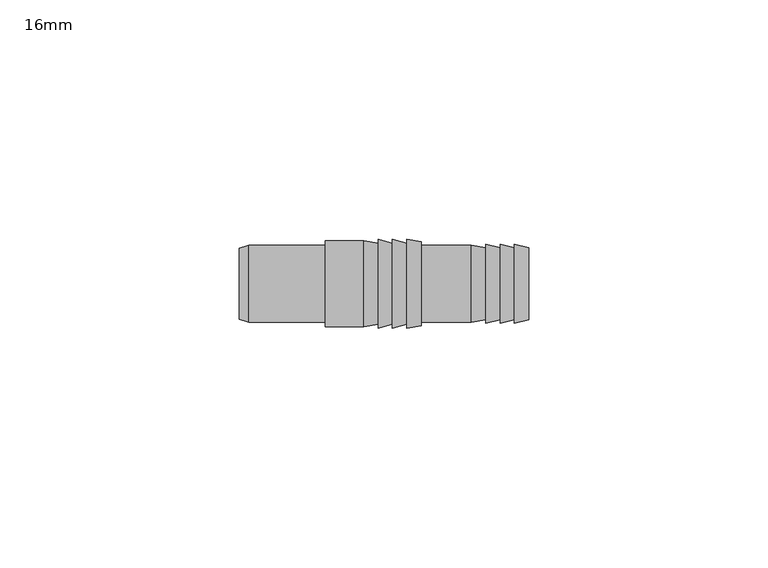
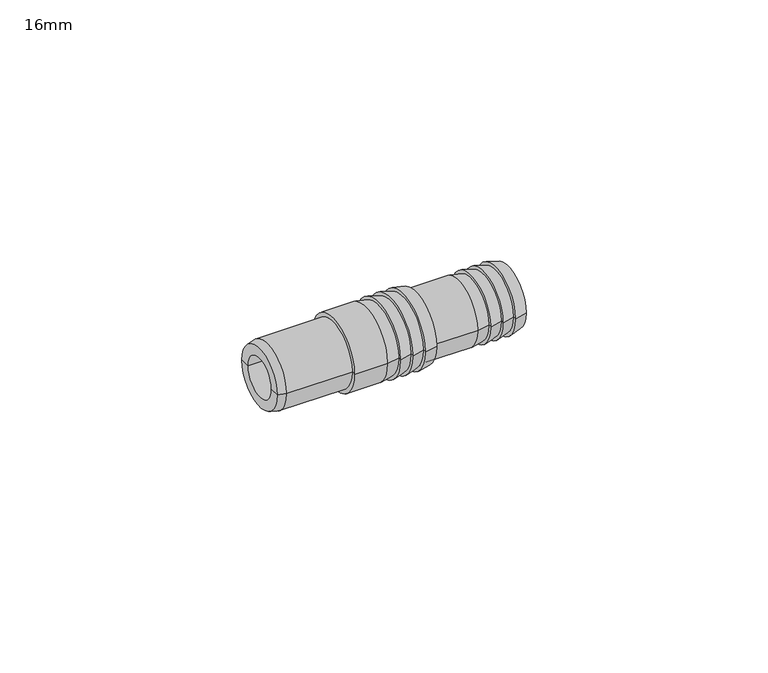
"""IFC4 building model written with IfcOpenShell, lengths in millimetres: pipe fitting geometry, Durapipe_PipeAccessories_PVC_HoseAdaptor : 16mm."""

from ifc_helpers import new_model, si_unit, frame, origin, place, context, project, spatial, polyline, circle_curve, source, transform, mapped, element, save
from ifc_brep_helpers import plane_surface, cylinder_surface, revolved_surface, advanced_brep


def pipe_fitting_16mm_850bc981(model_context):
    return source(origin(), model_context, "Body", "AdvancedBrep", [
        advanced_brep(
        [(-30.25, -5.0, 0.0), (-30.25, 5.0, 0.0), (-30.25, 7.4641016, 0.0), (-30.25, -7.4641016, 0.0), (30.25, -5.0, 0.0), (30.25, 5.0, 0.0), (30.25, -7.4884573, 0.0), (30.25, 7.4884573, 0.0), (27.25, -8.2923048, 0.0), (27.25, 8.2923048, 0.0), (27.25, -7.4923048, 0.0), (27.25, 7.4923048, 0.0), (24.25, -8.2961524, 0.0), (24.25, 8.2961524, 0.0), (24.25, -7.4961524, 0.0), (24.25, 7.4961524, 0.0), (21.25, -8.3, 0.0), (21.25, 8.3, 0.0), (21.25, -7.5, 0.0), (21.25, 7.5, 0.0), (18.25, -8.0, 0.0), (18.25, 8.0, 0.0), (7.75, -8.0, 0.0), (7.75, 8.0, 0.0), (7.75, -8.8, 0.0), (7.75, 8.8, 0.0), (4.75, -9.3, 0.0), (4.75, 9.3, 0.0), (4.75, -8.5, 0.0), (4.75, 8.5, 0.0), (1.75, -9.3, 0.0), (1.75, 9.3, 0.0), (1.75, -8.5, 0.0), (1.75, 8.5, 0.0), (-1.25, -9.3, 0.0), (-1.25, 9.3, 0.0), (-1.25, -8.5, 0.0), (-1.25, 8.5, 0.0), (-4.25, -9.0, 0.0), (-4.25, 9.0, 0.0), (-12.25, -9.0, 0.0), (-12.25, 9.0, 0.0), (-12.25, -8.0, 0.0), (-12.25, 8.0, 0.0), (-28.25, -8.0, 0.0), (-28.25, 8.0, 0.0)],
        [
            (0, 1, circle_curve(frame((-30.25, 0.0, 0.0), z_axis=(1.0, 0.0, 0.0), x_axis=(0.0, 1.0, 0.0)), 5.0)),
            (1, 2),
            (2, 3, circle_curve(frame((-30.25, 0.0, 0.0), z_axis=(-1.0, 0.0, 0.0), x_axis=(0.0, 1.0, 0.0)), 7.4641016)),
            (3, 0),
            (1, 0, circle_curve(frame((-30.25, 0.0, 0.0), z_axis=(1.0, 0.0, 0.0), x_axis=(0.0, 1.0, 0.0)), 5.0)),
            (3, 2, circle_curve(frame((-30.25, 0.0, 0.0), z_axis=(-1.0, 0.0, 0.0), x_axis=(0.0, 1.0, 0.0)), 7.4641016)),
            (4, 5, circle_curve(frame((30.25, 0.0, 0.0), z_axis=(1.0, 0.0, 0.0), x_axis=(0.0, 1.0, 0.0)), 5.0)),
            (5, 1),
            (0, 4),
            (5, 4, circle_curve(frame((30.25, 0.0, 0.0), z_axis=(1.0, 0.0, 0.0), x_axis=(0.0, 1.0, 0.0)), 5.0)),
            (6, 7, circle_curve(frame((30.25, 0.0, 0.0), z_axis=(1.0, 0.0, 0.0), x_axis=(0.0, 1.0, 0.0)), 7.4884573)),
            (7, 5),
            (4, 6),
            (7, 6, circle_curve(frame((30.25, 0.0, 0.0), z_axis=(1.0, 0.0, 0.0), x_axis=(0.0, 1.0, 0.0)), 7.4884573)),
            (8, 9, circle_curve(frame((27.25, 0.0, 0.0), z_axis=(1.0, 0.0, 0.0), x_axis=(0.0, 1.0, 0.0)), 8.2923048)),
            (9, 7),
            (6, 8),
            (9, 8, circle_curve(frame((27.25, 0.0, 0.0), z_axis=(1.0, 0.0, 0.0), x_axis=(0.0, 1.0, 0.0)), 8.2923048)),
            (10, 11, circle_curve(frame((27.25, 0.0, 0.0), z_axis=(1.0, 0.0, 0.0), x_axis=(0.0, 1.0, 0.0)), 7.4923048)),
            (11, 9),
            (8, 10),
            (11, 10, circle_curve(frame((27.25, 0.0, 0.0), z_axis=(1.0, 0.0, 0.0), x_axis=(0.0, 1.0, 0.0)), 7.4923048)),
            (12, 13, circle_curve(frame((24.25, 0.0, 0.0), z_axis=(1.0, 0.0, 0.0), x_axis=(0.0, 1.0, 0.0)), 8.2961524)),
            (13, 11),
            (10, 12),
            (13, 12, circle_curve(frame((24.25, 0.0, 0.0), z_axis=(1.0, 0.0, 0.0), x_axis=(0.0, 1.0, 0.0)), 8.2961524)),
            (14, 15, circle_curve(frame((24.25, 0.0, 0.0), z_axis=(1.0, 0.0, 0.0), x_axis=(0.0, 1.0, 0.0)), 7.4961524)),
            (15, 13),
            (12, 14),
            (15, 14, circle_curve(frame((24.25, 0.0, 0.0), z_axis=(1.0, 0.0, 0.0), x_axis=(0.0, 1.0, 0.0)), 7.4961524)),
            (16, 17, circle_curve(frame((21.25, 0.0, 0.0), z_axis=(1.0, 0.0, 0.0), x_axis=(0.0, 1.0, 0.0)), 8.3)),
            (17, 15),
            (14, 16),
            (17, 16, circle_curve(frame((21.25, 0.0, 0.0), z_axis=(1.0, 0.0, 0.0), x_axis=(0.0, 1.0, 0.0)), 8.3)),
            (18, 19, circle_curve(frame((21.25, 0.0, 0.0), z_axis=(1.0, 0.0, 0.0), x_axis=(0.0, 1.0, 0.0)), 7.5)),
            (19, 17),
            (16, 18),
            (19, 18, circle_curve(frame((21.25, 0.0, 0.0), z_axis=(1.0, 0.0, 0.0), x_axis=(0.0, 1.0, 0.0)), 7.5)),
            (20, 21, circle_curve(frame((18.25, 0.0, 0.0), z_axis=(1.0, 0.0, 0.0), x_axis=(0.0, 1.0, 0.0)), 8.0)),
            (21, 19),
            (18, 20),
            (21, 20, circle_curve(frame((18.25, 0.0, 0.0), z_axis=(1.0, 0.0, 0.0), x_axis=(0.0, 1.0, 0.0)), 8.0)),
            (22, 23, circle_curve(frame((7.75, 0.0, 0.0), z_axis=(1.0, 0.0, 0.0), x_axis=(0.0, 1.0, 0.0)), 8.0)),
            (23, 21),
            (20, 22),
            (23, 22, circle_curve(frame((7.75, 0.0, 0.0), z_axis=(1.0, 0.0, 0.0), x_axis=(0.0, 1.0, 0.0)), 8.0)),
            (24, 25, circle_curve(frame((7.75, 0.0, 0.0), z_axis=(1.0, 0.0, 0.0), x_axis=(0.0, 1.0, 0.0)), 8.8)),
            (25, 23),
            (22, 24),
            (25, 24, circle_curve(frame((7.75, 0.0, 0.0), z_axis=(1.0, 0.0, 0.0), x_axis=(0.0, 1.0, 0.0)), 8.8)),
            (26, 27, circle_curve(frame((4.75, 0.0, 0.0), z_axis=(1.0, 0.0, 0.0), x_axis=(0.0, 1.0, 0.0)), 9.3)),
            (27, 25),
            (24, 26),
            (27, 26, circle_curve(frame((4.75, 0.0, 0.0), z_axis=(1.0, 0.0, 0.0), x_axis=(0.0, 1.0, 0.0)), 9.3)),
            (28, 29, circle_curve(frame((4.75, 0.0, 0.0), z_axis=(1.0, 0.0, 0.0), x_axis=(0.0, 1.0, 0.0)), 8.5)),
            (29, 27),
            (26, 28),
            (29, 28, circle_curve(frame((4.75, 0.0, 0.0), z_axis=(1.0, 0.0, 0.0), x_axis=(0.0, 1.0, 0.0)), 8.5)),
            (30, 31, circle_curve(frame((1.75, 0.0, 0.0), z_axis=(1.0, 0.0, 0.0), x_axis=(0.0, 1.0, 0.0)), 9.3)),
            (31, 29),
            (28, 30),
            (31, 30, circle_curve(frame((1.75, 0.0, 0.0), z_axis=(1.0, 0.0, 0.0), x_axis=(0.0, 1.0, 0.0)), 9.3)),
            (32, 33, circle_curve(frame((1.75, 0.0, 0.0), z_axis=(1.0, 0.0, 0.0), x_axis=(0.0, 1.0, 0.0)), 8.5)),
            (33, 31),
            (30, 32),
            (33, 32, circle_curve(frame((1.75, 0.0, 0.0), z_axis=(1.0, 0.0, 0.0), x_axis=(0.0, 1.0, 0.0)), 8.5)),
            (34, 35, circle_curve(frame((-1.25, 0.0, 0.0), z_axis=(1.0, 0.0, 0.0), x_axis=(0.0, 1.0, 0.0)), 9.3)),
            (35, 33),
            (32, 34),
            (35, 34, circle_curve(frame((-1.25, 0.0, 0.0), z_axis=(1.0, 0.0, 0.0), x_axis=(0.0, 1.0, 0.0)), 9.3)),
            (36, 37, circle_curve(frame((-1.25, 0.0, 0.0), z_axis=(1.0, 0.0, 0.0), x_axis=(0.0, 1.0, 0.0)), 8.5)),
            (37, 35),
            (34, 36),
            (37, 36, circle_curve(frame((-1.25, 0.0, 0.0), z_axis=(1.0, 0.0, 0.0), x_axis=(0.0, 1.0, 0.0)), 8.5)),
            (38, 39, circle_curve(frame((-4.25, 0.0, 0.0), z_axis=(1.0, 0.0, 0.0), x_axis=(0.0, 1.0, 0.0)), 9.0)),
            (39, 37),
            (36, 38),
            (39, 38, circle_curve(frame((-4.25, 0.0, 0.0), z_axis=(1.0, 0.0, 0.0), x_axis=(0.0, 1.0, 0.0)), 9.0)),
            (40, 41, circle_curve(frame((-12.25, 0.0, 0.0), z_axis=(1.0, 0.0, 0.0), x_axis=(0.0, 1.0, 0.0)), 9.0)),
            (41, 39),
            (38, 40),
            (41, 40, circle_curve(frame((-12.25, 0.0, 0.0), z_axis=(1.0, 0.0, 0.0), x_axis=(0.0, 1.0, 0.0)), 9.0)),
            (42, 43, circle_curve(frame((-12.25, 0.0, 0.0), z_axis=(1.0, 0.0, 0.0), x_axis=(0.0, 1.0, 0.0)), 8.0)),
            (43, 41),
            (40, 42),
            (43, 42, circle_curve(frame((-12.25, 0.0, 0.0), z_axis=(1.0, 0.0, 0.0), x_axis=(0.0, 1.0, 0.0)), 8.0)),
            (44, 45, circle_curve(frame((-28.25, 0.0, 0.0), z_axis=(1.0, 0.0, 0.0), x_axis=(0.0, 1.0, 0.0)), 8.0)),
            (45, 43),
            (42, 44),
            (45, 44, circle_curve(frame((-28.25, 0.0, 0.0), z_axis=(1.0, 0.0, 0.0), x_axis=(0.0, 1.0, 0.0)), 8.0)),
            (2, 45),
            (44, 3),
        ],
        [
            plane_surface(frame((-30.25, 0.0, 0.0), z_axis=(-1.0, 0.0, 0.0), x_axis=(0.0, 1.0, 0.0))),
            revolved_surface(polyline([(-30.25, 5.0, 0.0), (30.25, 5.0, 0.0)]), (-28.25, 0.0, 0.0), (-1.0, 0.0, 0.0)),
            plane_surface(frame((30.25, 0.0, 0.0), z_axis=(1.0, 0.0, 0.0), x_axis=(0.0, 1.0, 0.0))),
            revolved_surface(polyline([(30.25, 7.4884573, 0.0), (27.25, 8.2923048, 0.0)]), (-28.25, 0.0, 0.0), (-1.0, 0.0, 0.0)),
            plane_surface(frame((27.25, 0.0, 0.0), z_axis=(-1.0, 0.0, 0.0), x_axis=(0.0, 1.0, 0.0))),
            revolved_surface(polyline([(27.25, 7.4923048, 0.0), (24.25, 8.2961524, 0.0)]), (-28.25, 0.0, 0.0), (-1.0, 0.0, 0.0)),
            plane_surface(frame((24.25, 0.0, 0.0), z_axis=(-1.0, 0.0, 0.0), x_axis=(0.0, 1.0, 0.0))),
            revolved_surface(polyline([(24.25, 7.4961524, 0.0), (21.25, 8.3, 0.0)]), (-28.25, 0.0, 0.0), (-1.0, 0.0, 0.0)),
            plane_surface(frame((21.25, 0.0, 0.0), z_axis=(-1.0, 0.0, 0.0), x_axis=(0.0, 1.0, 0.0))),
            revolved_surface(polyline([(21.25, 7.5, 0.0), (18.25, 8.0, 0.0)]), (-28.25, 0.0, 0.0), (-1.0, 0.0, 0.0)),
            cylinder_surface(frame((-28.25, 0.0, 0.0), z_axis=(-1.0, 0.0, 0.0), x_axis=(0.0, 1.0, 0.0)), 8.0),
            plane_surface(frame((7.75, 0.0, 0.0), z_axis=(1.0, 0.0, 0.0), x_axis=(0.0, 1.0, 0.0))),
            revolved_surface(polyline([(7.75, 8.8, 0.0), (4.75, 9.3, 0.0)]), (-28.25, 0.0, 0.0), (-1.0, 0.0, 0.0)),
            plane_surface(frame((4.75, 0.0, 0.0), z_axis=(-1.0, 0.0, 0.0), x_axis=(0.0, 1.0, 0.0))),
            revolved_surface(polyline([(4.75, 8.5, 0.0), (1.75, 9.3, 0.0)]), (-28.25, 0.0, 0.0), (-1.0, 0.0, 0.0)),
            plane_surface(frame((1.75, 0.0, 0.0), z_axis=(-1.0, 0.0, 0.0), x_axis=(0.0, 1.0, 0.0))),
            revolved_surface(polyline([(1.75, 8.5, 0.0), (-1.25, 9.3, 0.0)]), (-28.25, 0.0, 0.0), (-1.0, 0.0, 0.0)),
            plane_surface(frame((-1.25, 0.0, 0.0), z_axis=(-1.0, 0.0, 0.0), x_axis=(0.0, 1.0, 0.0))),
            revolved_surface(polyline([(-1.25, 8.5, 0.0), (-4.25, 9.0, 0.0)]), (-28.25, 0.0, 0.0), (-1.0, 0.0, 0.0)),
            cylinder_surface(frame((-28.25, 0.0, 0.0), z_axis=(-1.0, 0.0, 0.0), x_axis=(0.0, 1.0, 0.0)), 9.0),
            plane_surface(frame((-12.25, 0.0, 0.0), z_axis=(-1.0, 0.0, 0.0), x_axis=(0.0, 1.0, 0.0))),
            revolved_surface(polyline([(-28.25, 8.0, 0.0), (-30.25, 7.4641016, 0.0)]), (-28.25, 0.0, 0.0), (-1.0, 0.0, 0.0)),
        ],
        [
            (0, [[1, 2, 3, 4]]),
            (0, [[5, -4, 6, -2]]),
            (1, [[7, 8, -1, 9]]),
            (1, [[10, -9, -5, -8]]),
            (2, [[11, 12, -7, 13]]),
            (2, [[14, -13, -10, -12]]),
            (3, [[15, 16, -11, 17]]),
            (3, [[18, -17, -14, -16]]),
            (4, [[19, 20, -15, 21]]),
            (4, [[22, -21, -18, -20]]),
            (5, [[23, 24, -19, 25]]),
            (5, [[26, -25, -22, -24]]),
            (6, [[27, 28, -23, 29]]),
            (6, [[30, -29, -26, -28]]),
            (7, [[31, 32, -27, 33]]),
            (7, [[34, -33, -30, -32]]),
            (8, [[35, 36, -31, 37]]),
            (8, [[38, -37, -34, -36]]),
            (9, [[39, 40, -35, 41]]),
            (9, [[42, -41, -38, -40]]),
            (10, [[43, 44, -39, 45]]),
            (10, [[46, -45, -42, -44]]),
            (11, [[47, 48, -43, 49]]),
            (11, [[50, -49, -46, -48]]),
            (12, [[51, 52, -47, 53]]),
            (12, [[54, -53, -50, -52]]),
            (13, [[55, 56, -51, 57]]),
            (13, [[58, -57, -54, -56]]),
            (14, [[59, 60, -55, 61]]),
            (14, [[62, -61, -58, -60]]),
            (15, [[63, 64, -59, 65]]),
            (15, [[66, -65, -62, -64]]),
            (16, [[67, 68, -63, 69]]),
            (16, [[70, -69, -66, -68]]),
            (17, [[71, 72, -67, 73]]),
            (17, [[74, -73, -70, -72]]),
            (18, [[75, 76, -71, 77]]),
            (18, [[78, -77, -74, -76]]),
            (19, [[79, 80, -75, 81]]),
            (19, [[82, -81, -78, -80]]),
            (20, [[83, 84, -79, 85]]),
            (20, [[86, -85, -82, -84]]),
            (10, [[87, 88, -83, 89]]),
            (10, [[90, -89, -86, -88]]),
            (21, [[-3, 91, -87, 92]]),
            (21, [[-6, -92, -90, -91]]),
        ],
    ),
    ])


if __name__ == "__main__":
    model = new_model("IFC4")
    model_context = context("Model", 3, world=origin())
    ifc_project = project(units=[si_unit("LENGTHUNIT", "METRE", prefix="MILLI")], contexts=[model_context])
    site = spatial("IfcSite", under=ifc_project)
    building = spatial("IfcBuilding", under=site)
    placement = place(None, origin())
    pipe_fitting_16mm_shape = pipe_fitting_16mm_850bc981(model_context)
    element("IfcPipeFitting", 1, ObjectType="Durapipe_PipeAccessories_PVC_HoseAdaptor : 16mm", at=placement, inside=building, context=model_context, shape_type="MappedRepresentation", body=[
        mapped(pipe_fitting_16mm_shape, transform((0.0, 0.0, 0.0), x_axis=(1.0, 0.0, 0.0), y_axis=(0.0, 1.0, 0.0), z_axis=(0.0, 0.0, 1.0))),
    ])
    save(model, "model.ifc")
